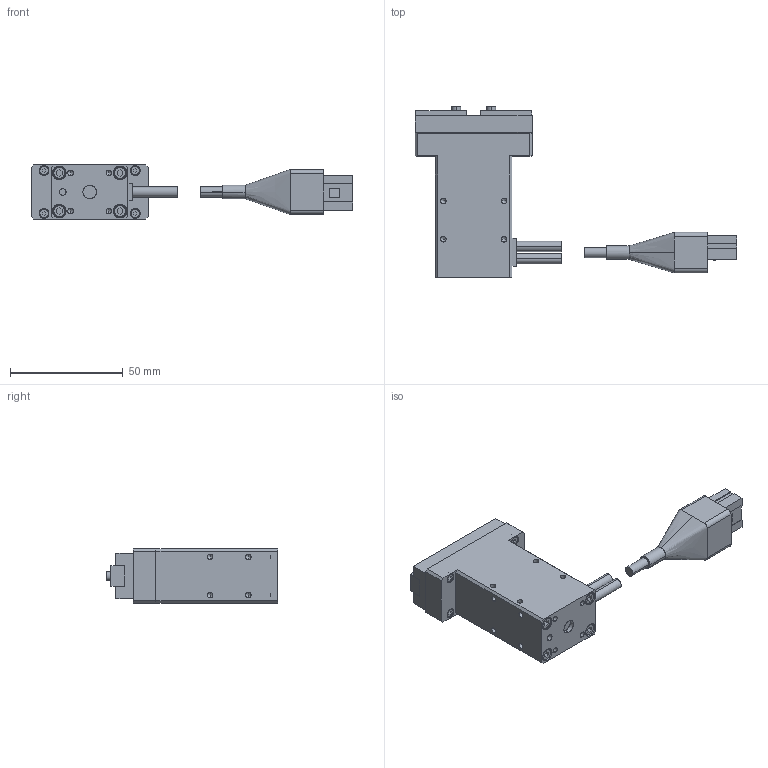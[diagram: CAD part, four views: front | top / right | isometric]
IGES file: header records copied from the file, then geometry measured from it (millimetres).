
Start section: SolidWorks IGES file using analytic representation for surfaces
Global section: file name: G:\SW2007図面\TAIYO\電動機器３Ｄ\電動グリッパ　２爪\ESG1-SD-2005.IGS; native system: SolidWorks 2007; preprocessor: SolidWorks 2007; author: 風音庵,,1; organization: 1; date: 090212.172201; units: millimetre
Bounding box: 142.89 x 76 x 24 mm (x, y, z)
Surface area: 22857.1 mm2 (no closed solid volume)
Topology: 0 solids, 0 shells, 402 faces, 4242 edges, 4202 vertices
Faces by surface type: bspline 246, revolution 156
